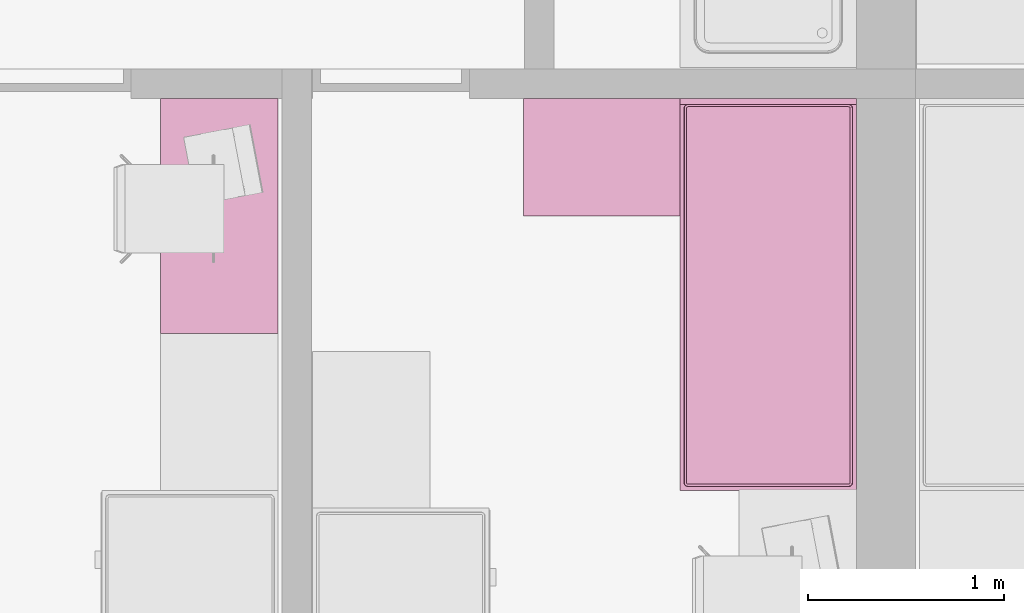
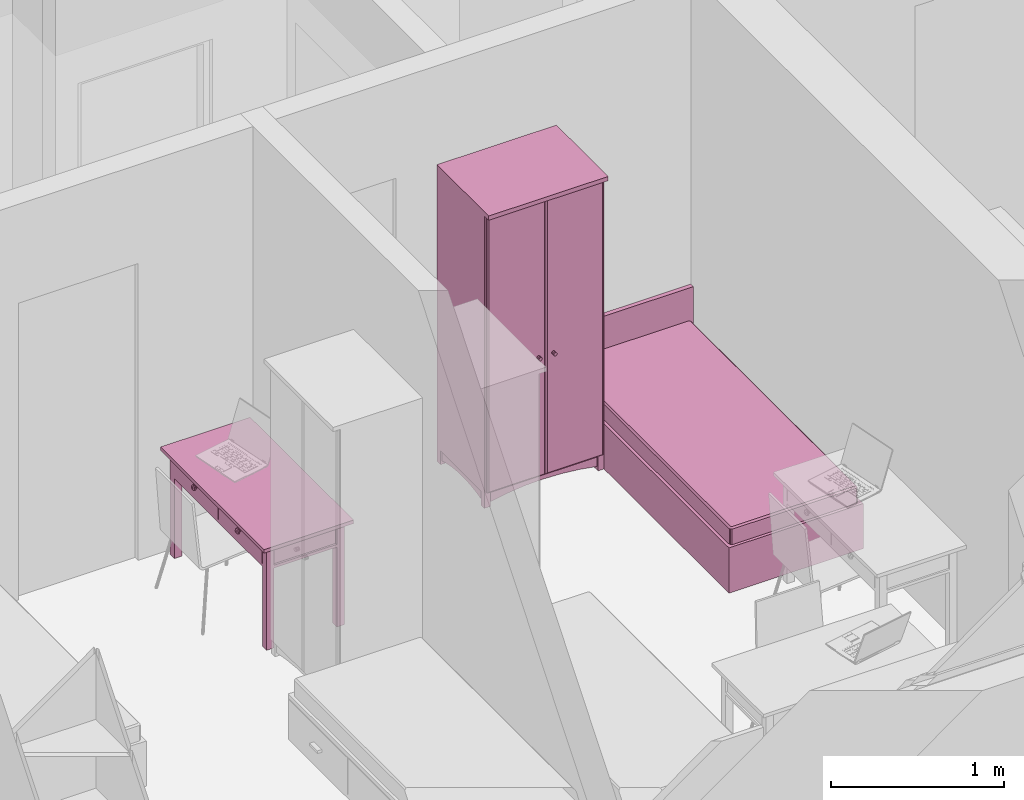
# One storey, part 63 of 165: 3 furnishings.
"""IFC2X3 building model written with IfcOpenShell, lengths in millimetres."""

from ifc_helpers import new_model, entity, si_unit, converted_unit, money_unit, direction, frame, origin_with_axes, place, context, subcontext, project, spatial, faceted_brep, source, transform, mapped, material, material_list, type_object, element, save


model = new_model("IFC2X3")

# Units and contexts
model_context = context("Model", 3, precision=1e-05, world=origin_with_axes(), true_north=direction((0.0, 1.0)))
body_context = subcontext(model_context, "Body", "Model", "MODEL_VIEW")
ifc_project = project(units=[si_unit("LENGTHUNIT", "METRE", prefix="MILLI"), si_unit("AREAUNIT", "SQUARE_METRE"), si_unit("VOLUMEUNIT", "CUBIC_METRE"), converted_unit("PLANEANGLEUNIT", "DEGREE", entity("IfcPlaneAngleMeasure", 0.0174532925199), si_unit("PLANEANGLEUNIT", "RADIAN"), dimensions=[0, 0, 0, 0, 0, 0, 0]), si_unit("SOLIDANGLEUNIT", "STERADIAN"), money_unit("USD"), converted_unit("TIMEUNIT", "Year", entity("IfcTimeMeasure", 31556926.0), si_unit("TIMEUNIT", "SECOND"), dimensions=[0, 0, 0, 0, 0, 0, 0]), si_unit("MASSUNIT", "GRAM"), si_unit("THERMODYNAMICTEMPERATUREUNIT", "DEGREE_CELSIUS"), si_unit("LUMINOUSINTENSITYUNIT", "LUMEN")], contexts=[model_context])

# Site, building, storey
site_placement = place(None, origin_with_axes())
site = spatial("IfcSite", under=ifc_project, at=site_placement, Name="Site", CompositionType="ELEMENT")
building_placement = place(site_placement, origin_with_axes())
building = spatial("IfcBuilding", under=site, at=building_placement, Name="Building", CompositionType="ELEMENT")
storey_placement = place(building_placement, frame((0.0, 0.0, 6300.0), z_axis=(0.0, 0.0, 1.0), x_axis=(1.0, 0.0, 0.0)))
storey = spatial("IfcBuildingStorey", under=building, at=storey_placement, Name="4KORRUS", CompositionType="ELEMENT", Elevation=6300.0)

# Furnishings
ifc_material = material(Name="Background")
ifc_material_list = material_list([ifc_material])
furnishing_element_type_1 = type_object("IfcFurnishingElementType", Name="Bed 19")
shared_shape_1 = source(origin_with_axes(), body_context, "Body", "Brep", [
    faceted_brep([(900.0, 1970.0, 0.0), (0.0, 1970.0, 0.0), (0.0, 2000.0, 0.0), (900.0, 2000.0, 0.0), (900.0, 1970.0, 660.0), (0.0, 1970.0, 660.0), (0.0, 2000.0, 660.0), (900.0, 2000.0, 660.0)], [[[0, 1, 2, 3]], [[1, 0, 4, 5]], [[2, 1, 5, 6]], [[3, 2, 6, 7]], [[0, 3, 7, 4]], [[5, 4, 7, 6]]]),
    faceted_brep([(900.0, 0.0, 0.0), (0.0, 0.0, 0.0), (0.0, 1970.0, 0.0), (900.0, 1970.0, 0.0), (900.0, 0.0, 320.0), (0.0, 0.0, 320.0), (0.0, 1970.0, 320.0), (900.0, 1970.0, 320.0)], [[[0, 1, 2, 3]], [[1, 0, 4, 5]], [[2, 1, 5, 6]], [[3, 2, 6, 7]], [[0, 3, 7, 4]], [[5, 4, 7, 6]]]),
    faceted_brep([(905.0, 10.0, 30.0), (900.0, 10.0, 30.0), (900.0, 695.0, 30.0), (905.0, 695.0, 30.0), (905.0, 10.0, 290.0), (900.0, 10.0, 290.0), (900.0, 695.0, 290.0), (905.0, 695.0, 290.0)], [[[0, 1, 2, 3]], [[1, 0, 4, 5]], [[2, 1, 5, 6]], [[3, 2, 6, 7]], [[0, 3, 7, 4]], [[5, 4, 7, 6]]]),
    faceted_brep([(935.0, 307.5, 150.0), (905.0, 307.5, 150.0), (905.0, 397.5, 150.0), (935.0, 397.5, 150.0), (935.0, 307.5, 170.0), (905.0, 307.5, 170.0), (905.0, 397.5, 170.0), (935.0, 397.5, 170.0)], [[[0, 1, 2, 3]], [[1, 0, 4, 5]], [[2, 1, 5, 6]], [[3, 2, 6, 7]], [[0, 3, 7, 4]], [[5, 4, 7, 6]]]),
    faceted_brep([(905.0, 705.0, 30.0), (900.0, 705.0, 30.0), (900.0, 1390.0, 30.0), (905.0, 1390.0, 30.0), (905.0, 705.0, 290.0), (900.0, 705.0, 290.0), (900.0, 1390.0, 290.0), (905.0, 1390.0, 290.0)], [[[0, 1, 2, 3]], [[1, 0, 4, 5]], [[2, 1, 5, 6]], [[3, 2, 6, 7]], [[0, 3, 7, 4]], [[5, 4, 7, 6]]]),
    faceted_brep([(935.0, 1002.5, 150.0), (905.0, 1002.5, 150.0), (905.0, 1092.5, 150.0), (935.0, 1092.5, 150.0), (935.0, 1002.5, 170.0), (905.0, 1002.5, 170.0), (905.0, 1092.5, 170.0), (935.0, 1092.5, 170.0)], [[[0, 1, 2, 3]], [[1, 0, 4, 5]], [[2, 1, 5, 6]], [[3, 2, 6, 7]], [[0, 3, 7, 4]], [[5, 4, 7, 6]]]),
    faceted_brep([(20.0, 40.0, 350.0), (20.0, 1950.0, 350.0), (21.522, 1957.654, 350.0), (25.858, 1964.142, 350.0), (32.346, 1968.478, 350.0), (40.0, 1970.0, 350.0), (860.0, 1970.0, 350.0), (867.654, 1968.478, 350.0), (874.142, 1964.142, 350.0), (878.478, 1957.654, 350.0), (880.0, 1950.0, 350.0), (880.0, 40.0, 350.0), (878.478, 32.346, 350.0), (874.142, 25.858, 350.0), (867.654, 21.522, 350.0), (860.0, 20.0, 350.0), (40.0, 20.0, 350.0), (32.346, 21.522, 350.0), (25.858, 25.858, 350.0), (21.522, 32.346, 350.0), (20.0, 40.0, 420.0), (20.0, 1950.0, 420.0), (21.522, 1957.654, 420.0), (25.858, 1964.142, 420.0), (32.346, 1968.478, 420.0), (40.0, 1970.0, 420.0), (860.0, 1970.0, 420.0), (867.654, 1968.478, 420.0), (874.142, 1964.142, 420.0), (878.478, 1957.654, 420.0), (880.0, 1950.0, 420.0), (880.0, 40.0, 420.0), (878.478, 32.346, 420.0), (874.142, 25.858, 420.0), (867.654, 21.522, 420.0), (860.0, 20.0, 420.0), (40.0, 20.0, 420.0), (32.346, 21.522, 420.0), (25.858, 25.858, 420.0), (21.522, 32.346, 420.0), (21.522, 40.15, 427.654), (21.522, 1949.85, 427.654), (22.956, 1957.06, 427.654), (26.955, 1963.045, 427.654), (32.94, 1967.044, 427.654), (40.15, 1968.478, 427.654), (859.85, 1968.478, 427.654), (867.06, 1967.044, 427.654), (873.045, 1963.045, 427.654), (877.044, 1957.06, 427.654), (878.478, 1949.85, 427.654), (878.478, 40.15, 427.654), (877.044, 32.94, 427.654), (873.045, 26.955, 427.654), (867.06, 22.956, 427.654), (859.85, 21.522, 427.654), (40.15, 21.522, 427.654), (32.94, 22.956, 427.654), (26.955, 26.955, 427.654), (22.956, 32.94, 427.654), (32.346, 41.216, 438.478), (32.346, 1948.784, 438.478), (33.152, 1952.836, 438.478), (34.759, 1955.241, 438.478), (37.164, 1956.848, 438.478), (41.216, 1957.654, 438.478), (858.784, 1957.654, 438.478), (862.836, 1956.848, 438.478), (865.241, 1955.241, 438.478), (866.848, 1952.836, 438.478), (867.654, 1948.784, 438.478), (867.654, 41.216, 438.478), (866.848, 37.164, 438.478), (865.241, 34.759, 438.478), (862.836, 33.152, 438.478), (858.784, 32.346, 438.478), (41.216, 32.346, 438.478), (37.164, 33.152, 438.478), (34.759, 34.759, 438.478), (33.152, 37.164, 438.478), (40.0, 41.97, 440.0), (40.0, 1948.03, 440.0), (40.327, 1949.673, 440.0), (40.0, 1950.0, 439.924), (41.97, 1950.0, 440.0), (858.03, 1950.0, 440.0), (859.673, 1949.673, 440.0), (860.0, 1950.0, 439.924), (860.0, 1948.03, 440.0), (860.0, 41.97, 440.0), (859.673, 40.327, 440.0), (860.0, 40.0, 439.924), (858.03, 40.0, 440.0), (41.97, 40.0, 440.0), (40.327, 40.327, 440.0), (40.0, 40.0, 439.924)], [[[0, 1, 2, 3, 4, 5, 6, 7, 8, 9, 10, 11, 12, 13, 14, 15, 16, 17, 18, 19]], [[1, 0, 20, 21]], [[2, 1, 21, 22]], [[3, 2, 22, 23]], [[4, 3, 23, 24]], [[5, 4, 24, 25]], [[6, 5, 25, 26]], [[7, 6, 26, 27]], [[8, 7, 27, 28]], [[9, 8, 28, 29]], [[10, 9, 29, 30]], [[11, 10, 30, 31]], [[12, 11, 31, 32]], [[13, 12, 32, 33]], [[14, 13, 33, 34]], [[15, 14, 34, 35]], [[16, 15, 35, 36]], [[17, 16, 36, 37]], [[18, 17, 37, 38]], [[19, 18, 38, 39]], [[0, 19, 39, 20]], [[21, 20, 40, 41]], [[22, 21, 41, 42]], [[23, 22, 42, 43]], [[24, 23, 43, 44]], [[25, 24, 44, 45]], [[26, 25, 45, 46]], [[27, 26, 46, 47]], [[28, 27, 47, 48]], [[29, 28, 48, 49]], [[30, 29, 49, 50]], [[31, 30, 50, 51]], [[32, 31, 51, 52]], [[33, 32, 52, 53]], [[34, 33, 53, 54]], [[35, 34, 54, 55]], [[36, 35, 55, 56]], [[37, 36, 56, 57]], [[38, 37, 57, 58]], [[39, 38, 58, 59]], [[20, 39, 59, 40]], [[41, 40, 60, 61]], [[42, 41, 61, 62]], [[43, 42, 62, 63]], [[44, 43, 63, 64]], [[45, 44, 64, 65]], [[46, 45, 65, 66]], [[47, 46, 66, 67]], [[48, 47, 67, 68]], [[49, 48, 68, 69]], [[50, 49, 69, 70]], [[51, 50, 70, 71]], [[52, 51, 71, 72]], [[53, 52, 72, 73]], [[54, 53, 73, 74]], [[55, 54, 74, 75]], [[56, 55, 75, 76]], [[57, 56, 76, 77]], [[58, 57, 77, 78]], [[59, 58, 78, 79]], [[40, 59, 79, 60]], [[61, 60, 80, 81]], [[62, 61, 81, 82, 83]], [[63, 62, 83]], [[64, 63, 83]], [[65, 64, 83, 82, 84]], [[66, 65, 84, 85]], [[67, 66, 85, 86, 87]], [[68, 67, 87]], [[69, 68, 87]], [[70, 69, 87, 86, 88]], [[71, 70, 88, 89]], [[72, 71, 89, 90, 91]], [[73, 72, 91]], [[74, 73, 91]], [[75, 74, 91, 90, 92]], [[76, 75, 92, 93]], [[77, 76, 93, 94, 95]], [[78, 77, 95]], [[79, 78, 95]], [[60, 79, 95, 94, 80]], [[81, 80, 94, 93, 92, 90, 89, 88, 86, 85, 84, 82]]]),
    faceted_brep([(20.0, 40.0, 350.0), (21.522, 32.346, 350.0), (25.858, 25.858, 350.0), (32.346, 21.522, 350.0), (40.0, 20.0, 350.0), (860.0, 20.0, 350.0), (867.654, 21.522, 350.0), (874.142, 25.858, 350.0), (878.478, 32.346, 350.0), (880.0, 40.0, 350.0), (880.0, 1950.0, 350.0), (878.478, 1957.654, 350.0), (874.142, 1964.142, 350.0), (867.654, 1968.478, 350.0), (860.0, 1970.0, 350.0), (40.0, 1970.0, 350.0), (32.346, 1968.478, 350.0), (25.858, 1964.142, 350.0), (21.522, 1957.654, 350.0), (20.0, 1950.0, 350.0), (20.0, 40.0, 320.0), (21.522, 32.346, 320.0), (25.858, 25.858, 320.0), (32.346, 21.522, 320.0), (40.0, 20.0, 320.0), (860.0, 20.0, 320.0), (867.654, 21.522, 320.0), (874.142, 25.858, 320.0), (878.478, 32.346, 320.0), (880.0, 40.0, 320.0), (880.0, 1950.0, 320.0), (878.478, 1957.654, 320.0), (874.142, 1964.142, 320.0), (867.654, 1968.478, 320.0), (860.0, 1970.0, 320.0), (40.0, 1970.0, 320.0), (32.346, 1968.478, 320.0), (25.858, 1964.142, 320.0), (21.522, 1957.654, 320.0), (20.0, 1950.0, 320.0)], [[[0, 1, 2, 3, 4, 5, 6, 7, 8, 9, 10, 11, 12, 13, 14, 15, 16, 17, 18, 19]], [[0, 20, 21, 1]], [[1, 21, 22, 2]], [[2, 22, 23, 3]], [[3, 23, 24, 4]], [[4, 24, 25, 5]], [[5, 25, 26, 6]], [[6, 26, 27, 7]], [[7, 27, 28, 8]], [[8, 28, 29, 9]], [[9, 29, 30, 10]], [[10, 30, 31, 11]], [[11, 31, 32, 12]], [[12, 32, 33, 13]], [[13, 33, 34, 14]], [[14, 34, 35, 15]], [[15, 35, 36, 16]], [[16, 36, 37, 17]], [[17, 37, 38, 18]], [[18, 38, 39, 19]], [[19, 39, 20, 0]], [[20, 39, 38, 37, 36, 35, 34, 33, 32, 31, 30, 29, 28, 27, 26, 25, 24, 23, 22, 21]]]),
])
furnishing_1_placement = place(storey_placement, frame((-43190.2967033, -17439.2398994, 0.0), z_axis=(0.0, 0.0, 1.0), x_axis=(1.0, 0.0, 0.0)))
element("IfcFurnishingElement", 1, at=furnishing_1_placement, inside=storey, type_object=furnishing_element_type_1, material=ifc_material_list, Name="FU - 013", context=body_context, shape_type="MappedRepresentation", body=[
    mapped(shared_shape_1, transform((0.0, 0.0, 0.0))),
])
furnishing_element_type_2 = type_object("IfcFurnishingElementType", Name="Cupboard 19")
shared_shape_2 = source(origin_with_axes(), body_context, "Body", "Brep", [
    faceted_brep([(780.0, 600.0, 120.0), (780.0, 600.0, 2050.0), (780.0, 580.0, 2050.0), (780.0, 580.0, 120.0), (20.0, 600.0, 120.0), (20.0, 600.0, 2050.0), (20.0, 580.0, 2050.0), (20.0, 580.0, 120.0)], [[[0, 1, 2, 3]], [[4, 5, 1, 0]], [[1, 5, 6, 2]], [[3, 2, 6, 7]], [[0, 3, 7, 4]], [[7, 6, 5, 4]]]),
    faceted_brep([(0.0, 50.0, 100.0), (0.0, 600.0, 100.0), (20.0, 600.0, 100.0), (20.0, 50.0, 100.0), (0.0, 50.0, 2070.0), (0.0, 600.0, 2070.0), (20.0, 600.0, 2070.0), (20.0, 50.0, 2070.0)], [[[0, 1, 2, 3]], [[0, 4, 5, 1]], [[1, 5, 6, 2]], [[2, 6, 7, 3]], [[3, 7, 4, 0]], [[7, 6, 5, 4]]]),
    faceted_brep([(780.0, 50.0, 100.0), (780.0, 600.0, 100.0), (800.0, 600.0, 100.0), (800.0, 50.0, 100.0), (780.0, 50.0, 2070.0), (780.0, 600.0, 2070.0), (800.0, 600.0, 2070.0), (800.0, 50.0, 2070.0)], [[[0, 1, 2, 3]], [[0, 4, 5, 1]], [[1, 5, 6, 2]], [[2, 6, 7, 3]], [[3, 7, 4, 0]], [[7, 6, 5, 4]]]),
    faceted_brep([(20.0, 50.0, 100.0), (20.0, 600.0, 100.0), (780.0, 600.0, 100.0), (780.0, 50.0, 100.0), (20.0, 50.0, 120.0), (20.0, 600.0, 120.0), (780.0, 600.0, 120.0), (780.0, 50.0, 120.0)], [[[0, 1, 2, 3]], [[0, 4, 5, 1]], [[1, 5, 6, 2]], [[2, 6, 7, 3]], [[3, 7, 4, 0]], [[7, 6, 5, 4]]]),
    faceted_brep([(20.0, 50.0, 2050.0), (20.0, 600.0, 2050.0), (780.0, 600.0, 2050.0), (780.0, 50.0, 2050.0), (20.0, 50.0, 2070.0), (20.0, 600.0, 2070.0), (780.0, 600.0, 2070.0), (780.0, 50.0, 2070.0)], [[[0, 1, 2, 3]], [[0, 4, 5, 1]], [[1, 5, 6, 2]], [[2, 6, 7, 3]], [[3, 7, 4, 0]], [[7, 6, 5, 4]]]),
    faceted_brep([(0.0, 600.0, 2070.0), (0.0, 0.0, 2070.0), (0.0, 0.0, 2100.0), (0.0, 600.0, 2100.0), (800.0, 600.0, 2070.0), (800.0, 0.0, 2070.0), (800.0, 0.0, 2100.0), (800.0, 600.0, 2100.0)], [[[0, 1, 2, 3]], [[0, 4, 5, 1]], [[1, 5, 6, 2]], [[3, 2, 6, 7]], [[4, 0, 3, 7]], [[5, 4, 7, 6]]]),
    faceted_brep([(760.0, 590.0, 25.0), (760.0, 570.0, 25.0), (640.962, 570.0, 45.8), (640.962, 590.0, 45.8), (760.0, 590.0, 100.0), (760.0, 570.0, 100.0), (40.0, 570.0, 100.0), (40.0, 570.0, 25.0), (159.038, 570.0, 45.8), (279.23, 570.0, 58.32), (400.0, 570.0, 62.5), (520.77, 570.0, 58.32), (520.77, 590.0, 58.32), (400.0, 590.0, 62.5), (279.23, 590.0, 58.32), (159.038, 590.0, 45.8), (40.0, 590.0, 25.0), (40.0, 590.0, 100.0)], [[[0, 1, 2, 3]], [[4, 5, 1, 0]], [[1, 5, 6, 7, 8, 9, 10, 11, 2]], [[3, 2, 11, 12]], [[0, 3, 12, 13, 14, 15, 16, 17, 4]], [[17, 6, 5, 4]], [[16, 7, 6, 17]], [[15, 8, 7, 16]], [[14, 9, 8, 15]], [[13, 10, 9, 14]], [[12, 11, 10, 13]]]),
    faceted_brep([(760.0, 80.0, 25.0), (760.0, 60.0, 25.0), (640.962, 60.0, 45.8), (640.962, 80.0, 45.8), (760.0, 80.0, 100.0), (760.0, 60.0, 100.0), (40.0, 60.0, 100.0), (40.0, 60.0, 25.0), (159.038, 60.0, 45.8), (279.23, 60.0, 58.32), (400.0, 60.0, 62.5), (520.77, 60.0, 58.32), (520.77, 80.0, 58.32), (400.0, 80.0, 62.5), (279.23, 80.0, 58.32), (159.038, 80.0, 45.8), (40.0, 80.0, 25.0), (40.0, 80.0, 100.0)], [[[0, 1, 2, 3]], [[4, 5, 1, 0]], [[1, 5, 6, 7, 8, 9, 10, 11, 2]], [[3, 2, 11, 12]], [[0, 3, 12, 13, 14, 15, 16, 17, 4]], [[17, 6, 5, 4]], [[16, 7, 6, 17]], [[15, 8, 7, 16]], [[14, 9, 8, 15]], [[13, 10, 9, 14]], [[12, 11, 10, 13]]]),
    faceted_brep([(790.0, 90.0, 25.0), (770.0, 90.0, 25.0), (770.0, 141.266, 38.072), (790.0, 141.266, 38.072), (790.0, 90.0, 100.0), (770.0, 90.0, 100.0), (770.0, 560.0, 100.0), (770.0, 560.0, 25.0), (770.0, 508.734, 38.072), (770.0, 456.752, 47.92), (770.0, 404.257, 54.508), (770.0, 351.453, 57.808), (770.0, 298.547, 57.808), (770.0, 245.743, 54.508), (770.0, 193.248, 47.92), (790.0, 193.248, 47.92), (790.0, 245.743, 54.508), (790.0, 298.547, 57.808), (790.0, 351.453, 57.808), (790.0, 404.257, 54.508), (790.0, 456.752, 47.92), (790.0, 508.734, 38.072), (790.0, 560.0, 25.0), (790.0, 560.0, 100.0)], [[[0, 1, 2, 3]], [[4, 5, 1, 0]], [[1, 5, 6, 7, 8, 9, 10, 11, 12, 13, 14, 2]], [[3, 2, 14, 15]], [[0, 3, 15, 16, 17, 18, 19, 20, 21, 22, 23, 4]], [[23, 6, 5, 4]], [[22, 7, 6, 23]], [[21, 8, 7, 22]], [[20, 9, 8, 21]], [[19, 10, 9, 20]], [[18, 11, 10, 19]], [[17, 12, 11, 18]], [[16, 13, 12, 17]], [[15, 14, 13, 16]]]),
    faceted_brep([(30.0, 90.0, 25.0), (10.0, 90.0, 25.0), (10.0, 141.266, 38.072), (30.0, 141.266, 38.072), (30.0, 90.0, 100.0), (10.0, 90.0, 100.0), (10.0, 560.0, 100.0), (10.0, 560.0, 25.0), (10.0, 508.734, 38.072), (10.0, 456.752, 47.92), (10.0, 404.257, 54.508), (10.0, 351.453, 57.808), (10.0, 298.547, 57.808), (10.0, 245.743, 54.508), (10.0, 193.248, 47.92), (30.0, 193.248, 47.92), (30.0, 245.743, 54.508), (30.0, 298.547, 57.808), (30.0, 351.453, 57.808), (30.0, 404.257, 54.508), (30.0, 456.752, 47.92), (30.0, 508.734, 38.072), (30.0, 560.0, 25.0), (30.0, 560.0, 100.0)], [[[0, 1, 2, 3]], [[4, 5, 1, 0]], [[1, 5, 6, 7, 8, 9, 10, 11, 12, 13, 14, 2]], [[3, 2, 14, 15]], [[0, 3, 15, 16, 17, 18, 19, 20, 21, 22, 23, 4]], [[23, 6, 5, 4]], [[22, 7, 6, 23]], [[21, 8, 7, 22]], [[20, 9, 8, 21]], [[19, 10, 9, 20]], [[18, 11, 10, 19]], [[17, 12, 11, 18]], [[16, 13, 12, 17]], [[15, 14, 13, 16]]]),
    faceted_brep([(760.0, 560.0, 0.0), (760.0, 560.0, 100.0), (760.0, 600.0, 100.0), (760.0, 600.0, 0.0), (800.0, 560.0, 0.0), (800.0, 560.0, 100.0), (800.0, 600.0, 100.0), (800.0, 600.0, 0.0)], [[[0, 1, 2, 3]], [[4, 5, 1, 0]], [[1, 5, 6, 2]], [[3, 2, 6, 7]], [[0, 3, 7, 4]], [[7, 6, 5, 4]]]),
    faceted_brep([(0.0, 560.0, 0.0), (0.0, 560.0, 100.0), (0.0, 600.0, 100.0), (0.0, 600.0, 0.0), (40.0, 560.0, 0.0), (40.0, 560.0, 100.0), (40.0, 600.0, 100.0), (40.0, 600.0, 0.0)], [[[0, 1, 2, 3]], [[4, 5, 1, 0]], [[1, 5, 6, 2]], [[3, 2, 6, 7]], [[0, 3, 7, 4]], [[7, 6, 5, 4]]]),
    faceted_brep([(760.0, 50.0, 0.0), (760.0, 50.0, 100.0), (760.0, 90.0, 100.0), (760.0, 90.0, 0.0), (800.0, 50.0, 0.0), (800.0, 50.0, 100.0), (800.0, 90.0, 100.0), (800.0, 90.0, 0.0)], [[[0, 1, 2, 3]], [[4, 5, 1, 0]], [[1, 5, 6, 2]], [[3, 2, 6, 7]], [[0, 3, 7, 4]], [[7, 6, 5, 4]]]),
    faceted_brep([(0.0, 50.0, 0.0), (0.0, 50.0, 100.0), (0.0, 90.0, 100.0), (0.0, 90.0, 0.0), (40.0, 50.0, 0.0), (40.0, 50.0, 100.0), (40.0, 90.0, 100.0), (40.0, 90.0, 0.0)], [[[0, 1, 2, 3]], [[4, 5, 1, 0]], [[1, 5, 6, 2]], [[3, 2, 6, 7]], [[0, 3, 7, 4]], [[7, 6, 5, 4]]]),
    faceted_brep([(780.0, 580.0, 587.5), (780.0, 580.0, 607.5), (780.0, 50.0, 607.5), (780.0, 50.0, 587.5), (20.0, 580.0, 587.5), (20.0, 580.0, 607.5), (20.0, 50.0, 607.5), (20.0, 50.0, 587.5)], [[[0, 1, 2, 3]], [[4, 5, 1, 0]], [[1, 5, 6, 2]], [[3, 2, 6, 7]], [[0, 3, 7, 4]], [[7, 6, 5, 4]]]),
    faceted_brep([(780.0, 580.0, 1075.0), (780.0, 580.0, 1095.0), (780.0, 50.0, 1095.0), (780.0, 50.0, 1075.0), (20.0, 580.0, 1075.0), (20.0, 580.0, 1095.0), (20.0, 50.0, 1095.0), (20.0, 50.0, 1075.0)], [[[0, 1, 2, 3]], [[4, 5, 1, 0]], [[1, 5, 6, 2]], [[3, 2, 6, 7]], [[0, 3, 7, 4]], [[7, 6, 5, 4]]]),
    faceted_brep([(780.0, 580.0, 1562.5), (780.0, 580.0, 1582.5), (780.0, 50.0, 1582.5), (780.0, 50.0, 1562.5), (20.0, 580.0, 1562.5), (20.0, 580.0, 1582.5), (20.0, 50.0, 1582.5), (20.0, 50.0, 1562.5)], [[[0, 1, 2, 3]], [[4, 5, 1, 0]], [[1, 5, 6, 2]], [[3, 2, 6, 7]], [[0, 3, 7, 4]], [[7, 6, 5, 4]]]),
    faceted_brep([(789.5, 50.0, 110.5), (400.5, 50.0, 110.5), (400.5, 50.0, 2059.5), (789.5, 50.0, 2059.5), (789.5, 40.0, 110.5), (400.5, 40.0, 110.5), (400.5, 40.0, 2059.5), (789.5, 40.0, 2059.5), (779.5, 30.0, 120.5), (410.5, 30.0, 120.5), (410.5, 30.0, 2049.5), (779.5, 30.0, 2049.5)], [[[0, 1, 2, 3]], [[0, 4, 5, 1]], [[1, 5, 6, 2]], [[2, 6, 7, 3]], [[3, 7, 4, 0]], [[4, 8, 9, 5]], [[5, 9, 10, 6]], [[6, 10, 11, 7]], [[7, 11, 8, 4]], [[10, 9, 8, 11]]]),
    faceted_brep([(399.5, 50.0, 110.5), (10.5, 50.0, 110.5), (10.5, 50.0, 2059.5), (399.5, 50.0, 2059.5), (399.5, 40.0, 110.5), (10.5, 40.0, 110.5), (10.5, 40.0, 2059.5), (399.5, 40.0, 2059.5), (389.5, 30.0, 120.5), (20.5, 30.0, 120.5), (20.5, 30.0, 2049.5), (389.5, 30.0, 2049.5)], [[[0, 1, 2, 3]], [[0, 4, 5, 1]], [[1, 5, 6, 2]], [[2, 6, 7, 3]], [[3, 7, 4, 0]], [[4, 8, 9, 5]], [[5, 9, 10, 6]], [[6, 10, 11, 7]], [[7, 11, 8, 4]], [[10, 9, 8, 11]]]),
    faceted_brep([(339.608, 30.0, 954.0), (338.0, 30.0, 960.0), (339.608, 30.0, 966.0), (344.0, 30.0, 970.392), (350.0, 30.0, 972.0), (356.0, 30.0, 970.392), (360.392, 30.0, 966.0), (362.0, 30.0, 960.0), (360.392, 30.0, 954.0), (356.0, 30.0, 949.608), (350.0, 30.0, 948.0), (344.0, 30.0, 949.608), (339.608, 5.0, 954.0), (338.0, 5.0, 960.0), (339.608, 5.0, 966.0), (344.0, 5.0, 970.392), (350.0, 5.0, 972.0), (356.0, 5.0, 970.392), (360.392, 5.0, 966.0), (362.0, 5.0, 960.0), (360.392, 5.0, 954.0), (356.0, 5.0, 949.608), (350.0, 5.0, 948.0), (344.0, 5.0, 949.608)], [[[0, 1, 2, 3, 4, 5, 6, 7, 8, 9, 10, 11]], [[0, 12, 13, 1]], [[1, 13, 14, 2]], [[2, 14, 15, 3]], [[3, 15, 16, 4]], [[4, 16, 17, 5]], [[5, 17, 18, 6]], [[6, 18, 19, 7]], [[7, 19, 20, 8]], [[8, 20, 21, 9]], [[9, 21, 22, 10]], [[10, 22, 23, 11]], [[11, 23, 12, 0]], [[12, 23, 22, 21, 20, 19, 18, 17, 16, 15, 14, 13]]]),
    faceted_brep([(460.392, 30.0, 954.0), (456.0, 30.0, 949.608), (450.0, 30.0, 948.0), (444.0, 30.0, 949.608), (439.608, 30.0, 954.0), (438.0, 30.0, 960.0), (439.608, 30.0, 966.0), (444.0, 30.0, 970.392), (450.0, 30.0, 972.0), (456.0, 30.0, 970.392), (460.392, 30.0, 966.0), (462.0, 30.0, 960.0), (460.392, 5.0, 954.0), (456.0, 5.0, 949.608), (450.0, 5.0, 948.0), (444.0, 5.0, 949.608), (439.608, 5.0, 954.0), (438.0, 5.0, 960.0), (439.608, 5.0, 966.0), (444.0, 5.0, 970.392), (450.0, 5.0, 972.0), (456.0, 5.0, 970.392), (460.392, 5.0, 966.0), (462.0, 5.0, 960.0)], [[[0, 1, 2, 3, 4, 5, 6, 7, 8, 9, 10, 11]], [[1, 0, 12, 13]], [[2, 1, 13, 14]], [[3, 2, 14, 15]], [[4, 3, 15, 16]], [[5, 4, 16, 17]], [[6, 5, 17, 18]], [[7, 6, 18, 19]], [[8, 7, 19, 20]], [[9, 8, 20, 21]], [[10, 9, 21, 22]], [[11, 10, 22, 23]], [[0, 11, 23, 12]], [[12, 23, 22, 21, 20, 19, 18, 17, 16, 15, 14, 13]]]),
])
furnishing_2_placement = place(storey_placement, frame((-43990.2967033, -16039.2398994, 0.0), z_axis=(0.0, 0.0, 1.0), x_axis=(1.0, 0.0, 0.0)))
element("IfcFurnishingElement", 2, at=furnishing_2_placement, inside=storey, type_object=furnishing_element_type_2, material=ifc_material_list, Name="FU - 014", context=body_context, shape_type="MappedRepresentation", body=[
    mapped(shared_shape_2, transform((0.0, 0.0, 0.0))),
])
furnishing_element_type_3 = type_object("IfcFurnishingElementType", Name="Rectangular Table 01 19")
shared_shape_3 = source(origin_with_axes(), body_context, "Body", "Brep", [
    faceted_brep([(90.0, 40.0, 0.0), (40.0, 40.0, 0.0), (40.0, 90.0, 0.0), (90.0, 90.0, 0.0), (90.0, 40.0, 725.0), (40.0, 40.0, 725.0), (40.0, 90.0, 725.0), (90.0, 90.0, 725.0)], [[[0, 1, 2, 3]], [[1, 0, 4, 5]], [[2, 1, 5, 6]], [[3, 2, 6, 7]], [[0, 3, 7, 4]], [[5, 4, 7, 6]]]),
    faceted_brep([(1160.0, 40.0, 0.0), (1110.0, 40.0, 0.0), (1110.0, 90.0, 0.0), (1160.0, 90.0, 0.0), (1160.0, 40.0, 725.0), (1110.0, 40.0, 725.0), (1110.0, 90.0, 725.0), (1160.0, 90.0, 725.0)], [[[0, 1, 2, 3]], [[1, 0, 4, 5]], [[2, 1, 5, 6]], [[3, 2, 6, 7]], [[0, 3, 7, 4]], [[5, 4, 7, 6]]]),
    faceted_brep([(90.0, 510.0, 0.0), (40.0, 510.0, 0.0), (40.0, 560.0, 0.0), (90.0, 560.0, 0.0), (90.0, 510.0, 725.0), (40.0, 510.0, 725.0), (40.0, 560.0, 725.0), (90.0, 560.0, 725.0)], [[[0, 1, 2, 3]], [[1, 0, 4, 5]], [[2, 1, 5, 6]], [[3, 2, 6, 7]], [[0, 3, 7, 4]], [[5, 4, 7, 6]]]),
    faceted_brep([(1160.0, 510.0, 0.0), (1110.0, 510.0, 0.0), (1110.0, 560.0, 0.0), (1160.0, 560.0, 0.0), (1160.0, 510.0, 725.0), (1110.0, 510.0, 725.0), (1110.0, 560.0, 725.0), (1160.0, 560.0, 725.0)], [[[0, 1, 2, 3]], [[1, 0, 4, 5]], [[2, 1, 5, 6]], [[3, 2, 6, 7]], [[0, 3, 7, 4]], [[5, 4, 7, 6]]]),
    faceted_brep([(1160.0, 40.0, 565.0), (40.0, 40.0, 565.0), (40.0, 560.0, 565.0), (1160.0, 560.0, 565.0), (1160.0, 40.0, 585.0), (40.0, 40.0, 585.0), (40.0, 560.0, 585.0), (1160.0, 560.0, 585.0)], [[[0, 1, 2, 3]], [[1, 0, 4, 5]], [[2, 1, 5, 6]], [[3, 2, 6, 7]], [[0, 3, 7, 4]], [[5, 4, 7, 6]]]),
    faceted_brep([(1110.0, 52.5, 585.0), (90.0, 52.5, 585.0), (90.0, 77.5, 585.0), (1110.0, 77.5, 585.0), (1110.0, 52.5, 745.0), (90.0, 52.5, 745.0), (90.0, 77.5, 745.0), (1110.0, 77.5, 745.0)], [[[0, 1, 2, 3]], [[1, 0, 4, 5]], [[2, 1, 5, 6]], [[3, 2, 6, 7]], [[0, 3, 7, 4]], [[5, 4, 7, 6]]]),
    faceted_brep([(77.5, 90.0, 585.0), (52.5, 90.0, 585.0), (52.5, 510.0, 585.0), (77.5, 510.0, 585.0), (77.5, 90.0, 745.0), (52.5, 90.0, 745.0), (52.5, 510.0, 745.0), (77.5, 510.0, 745.0)], [[[0, 1, 2, 3]], [[1, 0, 4, 5]], [[2, 1, 5, 6]], [[3, 2, 6, 7]], [[0, 3, 7, 4]], [[5, 4, 7, 6]]]),
    faceted_brep([(90.0, 547.5, 585.0), (1110.0, 547.5, 585.0), (1110.0, 522.5, 585.0), (90.0, 522.5, 585.0), (90.0, 547.5, 745.0), (1110.0, 547.5, 745.0), (1110.0, 522.5, 745.0), (90.0, 522.5, 745.0)], [[[0, 1, 2, 3]], [[1, 0, 4, 5]], [[2, 1, 5, 6]], [[3, 2, 6, 7]], [[0, 3, 7, 4]], [[5, 4, 7, 6]]]),
    faceted_brep([(1122.5, 510.0, 585.0), (1147.5, 510.0, 585.0), (1147.5, 90.0, 585.0), (1122.5, 90.0, 585.0), (1122.5, 510.0, 745.0), (1147.5, 510.0, 745.0), (1147.5, 90.0, 745.0), (1122.5, 90.0, 745.0)], [[[0, 1, 2, 3]], [[1, 0, 4, 5]], [[2, 1, 5, 6]], [[3, 2, 6, 7]], [[0, 3, 7, 4]], [[5, 4, 7, 6]]]),
    faceted_brep([(597.5, 40.0, 585.0), (95.0, 40.0, 585.0), (95.0, 60.0, 585.0), (597.5, 60.0, 585.0), (597.5, 40.0, 745.0), (95.0, 40.0, 745.0), (95.0, 60.0, 745.0), (597.5, 60.0, 745.0)], [[[0, 1, 2, 3]], [[1, 0, 4, 5]], [[2, 1, 5, 6]], [[3, 2, 6, 7]], [[0, 3, 7, 4]], [[5, 4, 7, 6]]]),
    faceted_brep([(1105.0, 40.0, 585.0), (602.5, 40.0, 585.0), (602.5, 60.0, 585.0), (1105.0, 60.0, 585.0), (1105.0, 40.0, 745.0), (602.5, 40.0, 745.0), (602.5, 60.0, 745.0), (1105.0, 60.0, 745.0)], [[[0, 1, 2, 3]], [[1, 0, 4, 5]], [[2, 1, 5, 6]], [[3, 2, 6, 7]], [[0, 3, 7, 4]], [[5, 4, 7, 6]]]),
    faceted_brep([(354.91, 40.0, 660.0), (351.25, 40.0, 656.34), (346.25, 40.0, 655.0), (341.25, 40.0, 656.34), (337.59, 40.0, 660.0), (336.25, 40.0, 665.0), (337.59, 40.0, 670.0), (341.25, 40.0, 673.66), (346.25, 40.0, 675.0), (351.25, 40.0, 673.66), (354.91, 40.0, 670.0), (356.25, 40.0, 665.0), (354.91, 25.0, 660.0), (351.25, 25.0, 656.34), (346.25, 25.0, 655.0), (341.25, 25.0, 656.34), (337.59, 25.0, 660.0), (336.25, 25.0, 665.0), (337.59, 25.0, 670.0), (341.25, 25.0, 673.66), (346.25, 25.0, 675.0), (351.25, 25.0, 673.66), (354.91, 25.0, 670.0), (356.25, 25.0, 665.0)], [[[0, 1, 2, 3, 4, 5, 6, 7, 8, 9, 10, 11]], [[1, 0, 12, 13]], [[2, 1, 13, 14]], [[3, 2, 14, 15]], [[4, 3, 15, 16]], [[5, 4, 16, 17]], [[6, 5, 17, 18]], [[7, 6, 18, 19]], [[8, 7, 19, 20]], [[9, 8, 20, 21]], [[10, 9, 21, 22]], [[11, 10, 22, 23]], [[0, 11, 23, 12]], [[12, 23, 22, 21, 20, 19, 18, 17, 16, 15, 14, 13]]]),
    faceted_brep([(356.25, 12.01, 665.0), (346.25, 10.0, 665.0), (354.91, 12.01, 660.0), (354.91, 12.01, 670.0), (351.25, 12.01, 656.34), (363.571, 17.5, 665.0), (361.25, 17.5, 656.34), (351.25, 12.01, 673.66), (361.25, 17.5, 673.66), (346.25, 12.01, 655.0), (354.91, 17.5, 650.0), (366.25, 25.0, 665.0), (363.571, 25.0, 655.0), (346.25, 12.01, 675.0), (354.91, 17.5, 680.0), (363.571, 25.0, 675.0), (341.25, 12.01, 656.34), (346.25, 17.5, 647.679), (356.25, 25.0, 647.679), (346.25, 25.0, 645.0), (336.25, 25.0, 647.679), (328.929, 25.0, 655.0), (326.25, 25.0, 665.0), (328.929, 25.0, 675.0), (336.25, 25.0, 682.321), (346.25, 25.0, 685.0), (356.25, 25.0, 682.321), (341.25, 12.01, 673.66), (346.25, 17.5, 682.321), (337.59, 12.01, 660.0), (337.59, 17.5, 650.0), (331.25, 17.5, 656.34), (328.929, 17.5, 665.0), (331.25, 17.5, 673.66), (337.59, 17.5, 680.0), (337.59, 12.01, 670.0), (336.25, 12.01, 665.0)], [[[0, 1, 2]], [[3, 1, 0]], [[2, 1, 4]], [[5, 0, 2, 6]], [[7, 1, 3]], [[8, 3, 0, 5]], [[4, 1, 9]], [[6, 2, 4, 10]], [[11, 5, 6, 12]], [[13, 1, 7]], [[14, 7, 3, 8]], [[15, 8, 5, 11]], [[9, 1, 16]], [[10, 4, 9, 17]], [[12, 6, 10, 18]], [[12, 18, 19, 20, 21, 22, 23, 24, 25, 26, 15, 11]], [[27, 1, 13]], [[28, 13, 7, 14]], [[26, 14, 8, 15]], [[16, 1, 29]], [[17, 9, 16, 30]], [[18, 10, 17, 19]], [[19, 17, 30, 20]], [[20, 30, 31, 21]], [[21, 31, 32, 22]], [[22, 32, 33, 23]], [[23, 33, 34, 24]], [[24, 34, 28, 25]], [[25, 28, 14, 26]], [[35, 1, 27]], [[34, 27, 13, 28]], [[29, 1, 36]], [[30, 16, 29, 31]], [[31, 29, 36, 32]], [[32, 36, 35, 33]], [[33, 35, 27, 34]], [[36, 1, 35]]]),
    faceted_brep([(862.41, 40.0, 660.0), (858.75, 40.0, 656.34), (853.75, 40.0, 655.0), (848.75, 40.0, 656.34), (845.09, 40.0, 660.0), (843.75, 40.0, 665.0), (845.09, 40.0, 670.0), (848.75, 40.0, 673.66), (853.75, 40.0, 675.0), (858.75, 40.0, 673.66), (862.41, 40.0, 670.0), (863.75, 40.0, 665.0), (862.41, 25.0, 660.0), (858.75, 25.0, 656.34), (853.75, 25.0, 655.0), (848.75, 25.0, 656.34), (845.09, 25.0, 660.0), (843.75, 25.0, 665.0), (845.09, 25.0, 670.0), (848.75, 25.0, 673.66), (853.75, 25.0, 675.0), (858.75, 25.0, 673.66), (862.41, 25.0, 670.0), (863.75, 25.0, 665.0)], [[[0, 1, 2, 3, 4, 5, 6, 7, 8, 9, 10, 11]], [[1, 0, 12, 13]], [[2, 1, 13, 14]], [[3, 2, 14, 15]], [[4, 3, 15, 16]], [[5, 4, 16, 17]], [[6, 5, 17, 18]], [[7, 6, 18, 19]], [[8, 7, 19, 20]], [[9, 8, 20, 21]], [[10, 9, 21, 22]], [[11, 10, 22, 23]], [[0, 11, 23, 12]], [[12, 23, 22, 21, 20, 19, 18, 17, 16, 15, 14, 13]]]),
    faceted_brep([(863.75, 12.01, 665.0), (853.75, 10.0, 665.0), (862.41, 12.01, 660.0), (862.41, 12.01, 670.0), (858.75, 12.01, 656.34), (871.071, 17.5, 665.0), (868.75, 17.5, 656.34), (858.75, 12.01, 673.66), (868.75, 17.5, 673.66), (853.75, 12.01, 655.0), (862.41, 17.5, 650.0), (873.75, 25.0, 665.0), (871.071, 25.0, 655.0), (853.75, 12.01, 675.0), (862.41, 17.5, 680.0), (871.071, 25.0, 675.0), (848.75, 12.01, 656.34), (853.75, 17.5, 647.679), (863.75, 25.0, 647.679), (853.75, 25.0, 645.0), (843.75, 25.0, 647.679), (836.429, 25.0, 655.0), (833.75, 25.0, 665.0), (836.429, 25.0, 675.0), (843.75, 25.0, 682.321), (853.75, 25.0, 685.0), (863.75, 25.0, 682.321), (848.75, 12.01, 673.66), (853.75, 17.5, 682.321), (845.09, 12.01, 660.0), (845.09, 17.5, 650.0), (838.75, 17.5, 656.34), (836.429, 17.5, 665.0), (838.75, 17.5, 673.66), (845.09, 17.5, 680.0), (845.09, 12.01, 670.0), (843.75, 12.01, 665.0)], [[[0, 1, 2]], [[3, 1, 0]], [[2, 1, 4]], [[5, 0, 2, 6]], [[7, 1, 3]], [[8, 3, 0, 5]], [[4, 1, 9]], [[6, 2, 4, 10]], [[11, 5, 6, 12]], [[13, 1, 7]], [[14, 7, 3, 8]], [[15, 8, 5, 11]], [[9, 1, 16]], [[10, 4, 9, 17]], [[12, 6, 10, 18]], [[12, 18, 19, 20, 21, 22, 23, 24, 25, 26, 15, 11]], [[27, 1, 13]], [[28, 13, 7, 14]], [[26, 14, 8, 15]], [[16, 1, 29]], [[17, 9, 16, 30]], [[18, 10, 17, 19]], [[19, 17, 30, 20]], [[20, 30, 31, 21]], [[21, 31, 32, 22]], [[22, 32, 33, 23]], [[23, 33, 34, 24]], [[24, 34, 28, 25]], [[25, 28, 14, 26]], [[35, 1, 27]], [[34, 27, 13, 28]], [[29, 1, 36]], [[30, 16, 29, 31]], [[31, 29, 36, 32]], [[32, 36, 35, 33]], [[33, 35, 27, 34]], [[36, 1, 35]]]),
    faceted_brep([(1200.0, 0.0, 725.0), (0.0, 0.0, 725.0), (0.0, 600.0, 725.0), (1200.0, 600.0, 725.0), (1200.0, 0.0, 750.0), (0.0, 0.0, 750.0), (0.0, 600.0, 750.0), (1200.0, 600.0, 750.0)], [[[0, 1, 2, 3]], [[1, 0, 4, 5]], [[2, 1, 5, 6]], [[3, 2, 6, 7]], [[0, 3, 7, 4]], [[5, 4, 7, 6]]]),
])
furnishing_3_placement = place(storey_placement, frame((-45840.2967033, -15439.2398994, 0.0), z_axis=(0.0, 0.0, 1.0), x_axis=(0.0, -1.0, 0.0)))
element("IfcFurnishingElement", 3, at=furnishing_3_placement, inside=storey, type_object=furnishing_element_type_3, material=ifc_material_list, Name="FU - 011", context=body_context, shape_type="MappedRepresentation", body=[
    mapped(shared_shape_3, transform((0.0, 0.0, 0.0))),
])

save(model, "model.ifc")
